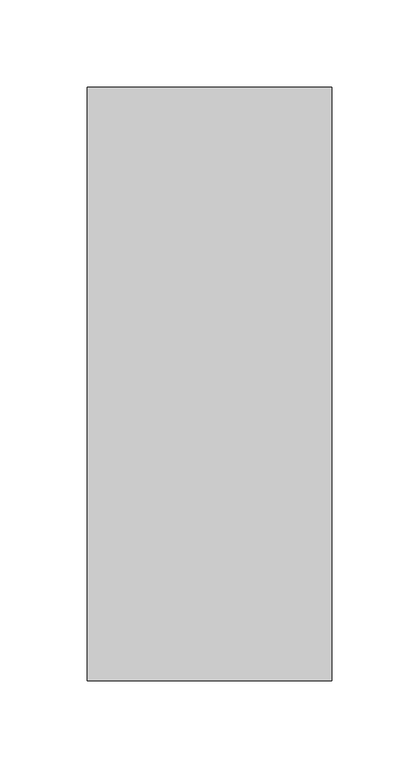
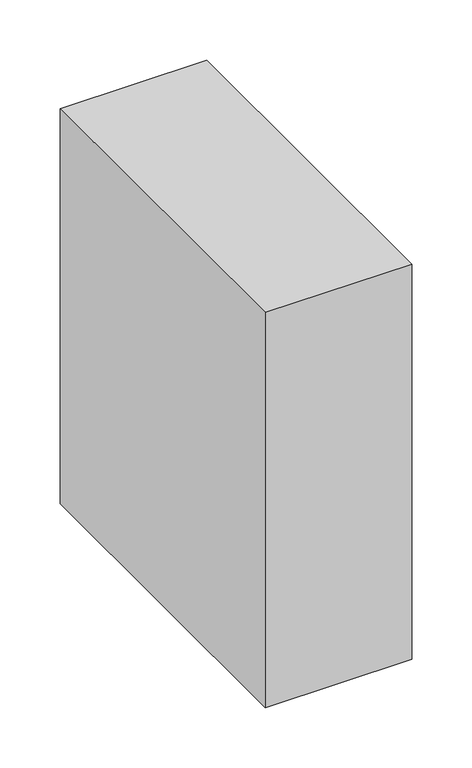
"""IFC4 building model written with IfcOpenShell, lengths in millimetres: proxy geometry."""

from ifc_helpers import new_model, si_unit, frame, origin, place, context, project, spatial, polyline, outline, extrude, source, transform, mapped, element, save


def structural_framing_b230c8f5(model_context):
    return source(origin(), model_context, "Body", "SweptSolid", [
        extrude(outline(polyline([(70.0, -170.0), (-70.0, -170.0), (-70.0, 170.0), (70.0, 170.0), (70.0, -170.0)])), frame((0.0, 0.0, -400.0), z_axis=(0.0, 0.0, 1.0), x_axis=(1.0, 0.0, 0.0)), (0.0, 0.0, 1.0), 400.0),
    ])


if __name__ == "__main__":
    model = new_model("IFC4")
    model_context = context("Model", 3, world=origin())
    ifc_project = project(units=[si_unit("LENGTHUNIT", "METRE", prefix="MILLI")], contexts=[model_context])
    site = spatial("IfcSite", under=ifc_project)
    building = spatial("IfcBuilding", under=site)
    placement = place(None, origin())
    structural_framing_shape = structural_framing_b230c8f5(model_context)
    element("IfcBuildingElementProxy", 1, Name="Structural Framing", at=placement, inside=building, context=model_context, shape_type="MappedRepresentation", body=[
        mapped(structural_framing_shape, transform((0.0, 0.0, 0.0), x_axis=(1.0, 0.0, 0.0), y_axis=(0.0, 1.0, 0.0), z_axis=(0.0, 0.0, 1.0))),
    ])
    save(model, "model.ifc")
